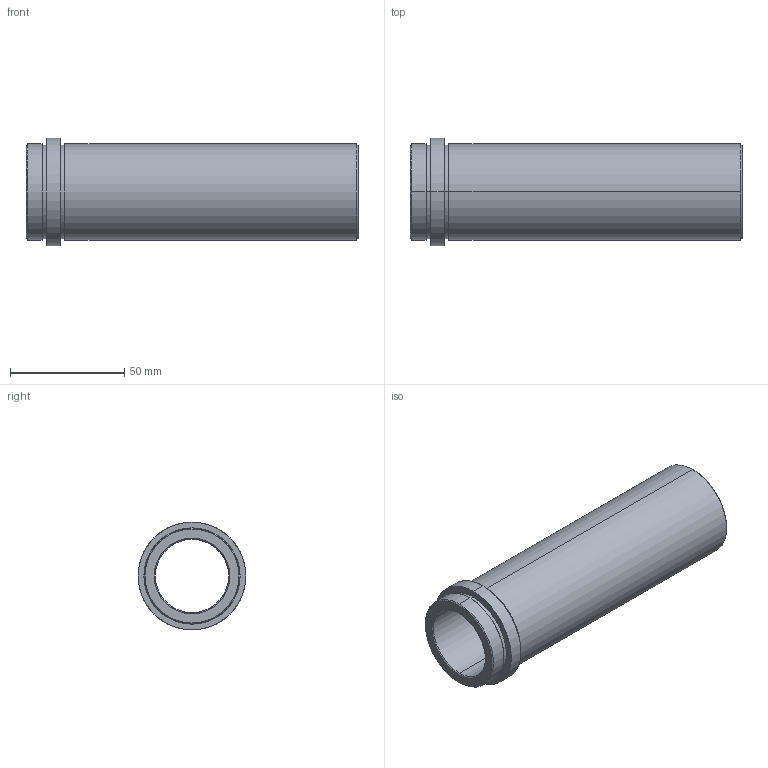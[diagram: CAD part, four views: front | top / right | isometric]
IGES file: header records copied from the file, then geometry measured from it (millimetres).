
Start section: SolidWorks IGES FILE using analytic representation for surfaces
Global section: file name: D:\zzzzz\Delta\D21\32\D21 - 32x136.IGS; native system: SolidWorks 2004 by SolidWorks Corporation; preprocessor: Version 5.3; author: Hkn; date: 080326.193243; units: millimetre
Bounding box: 145 x 47 x 47 mm (x, y, z)
Surface area: 35776.9 mm2 (no closed solid volume)
Topology: 0 solids, 0 shells, 26 faces, 848 edges, 848 vertices
Faces by surface type: revolution 20, bspline 6
